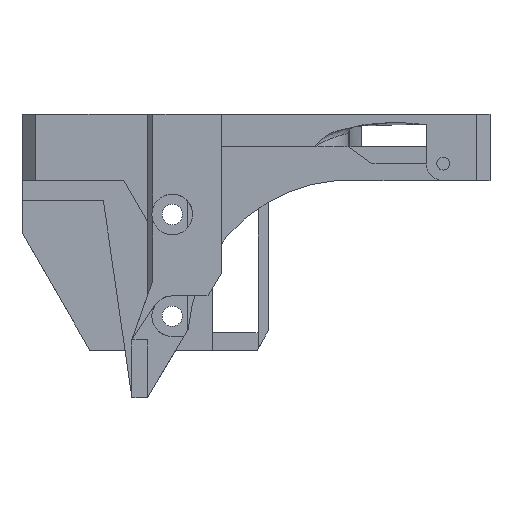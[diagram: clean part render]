
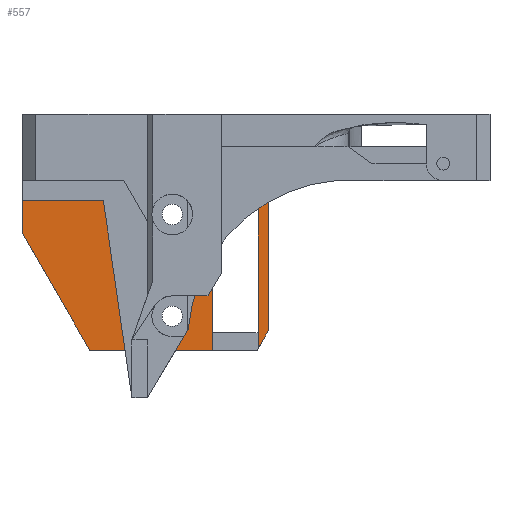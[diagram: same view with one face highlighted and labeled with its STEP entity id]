
A CAD part, left-side view. The second image highlights one B-rep face of the part: STEP entity #557.
In plain terms, the highlighted planar face has unit normal (-1, 0, 0).
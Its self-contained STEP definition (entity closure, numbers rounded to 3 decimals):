
#557=ADVANCED_FACE('',(#2814,#2816,#2818),#2820,.T.);
#2814=FACE_BOUND('',#2815,.T.);
#2815=EDGE_LOOP('',(#4746,#4747,#4748,#4749,#4750,#4751,#4752,#4753,#4754,#4755,
#4756));
#2816=FACE_BOUND('',#2817,.T.);
#2817=EDGE_LOOP('',(#4757));
#2818=FACE_BOUND('',#2819,.T.);
#2819=EDGE_LOOP('',(#4758));
#2820=PLANE('',#2821);
#2821=AXIS2_PLACEMENT_3D('',#2822,#2823,#2824);
#2822=CARTESIAN_POINT('',(16.2,-38.53,-4.75));
#2823=DIRECTION('',(-1.,0.,0.));
#2824=DIRECTION('',(0.,1.,0.));
#4746=ORIENTED_EDGE('',*,*,#6112,.F.);
#4747=ORIENTED_EDGE('',*,*,#5899,.T.);
#4748=ORIENTED_EDGE('',*,*,#5910,.T.);
#4749=ORIENTED_EDGE('',*,*,#5938,.T.);
#4750=ORIENTED_EDGE('',*,*,#6113,.T.);
#4751=ORIENTED_EDGE('',*,*,#6114,.T.);
#4752=ORIENTED_EDGE('',*,*,#6115,.T.);
#4753=ORIENTED_EDGE('',*,*,#6116,.T.);
#4754=ORIENTED_EDGE('',*,*,#6117,.T.);
#4755=ORIENTED_EDGE('',*,*,#6118,.F.);
#4756=ORIENTED_EDGE('',*,*,#6119,.T.);
#4757=ORIENTED_EDGE('',*,*,#6120,.T.);
#4758=ORIENTED_EDGE('',*,*,#6121,.T.);
#5899=EDGE_CURVE('',#6692,#6701,#6703,.F.);
#5910=EDGE_CURVE('',#6701,#6720,#6722,.F.);
#5938=EDGE_CURVE('',#6720,#6769,#6771,.T.);
#6112=EDGE_CURVE('',#6692,#7080,#7081,.F.);
#6113=EDGE_CURVE('',#6769,#7082,#7083,.F.);
#6114=EDGE_CURVE('',#7082,#7084,#7085,.F.);
#6115=EDGE_CURVE('',#7084,#7086,#7087,.F.);
#6116=EDGE_CURVE('',#7086,#7088,#7089,.F.);
#6117=EDGE_CURVE('',#7088,#7090,#7091,.F.);
#6118=EDGE_CURVE('',#7092,#7090,#7093,.F.);
#6119=EDGE_CURVE('',#7092,#7080,#7094,.F.);
#6120=EDGE_CURVE('',#7095,#7095,#7096,.F.);
#6121=EDGE_CURVE('',#7097,#7097,#7098,.F.);
#6692=VERTEX_POINT('',#8065);
#6701=VERTEX_POINT('',#8084);
#6703=LINE('',#8088,#8089);
#6720=VERTEX_POINT('',#8128);
#6722=LINE('',#8132,#8133);
#6769=VERTEX_POINT('',#8275);
#6771=LINE('',#8279,#8280);
#7080=VERTEX_POINT('',#9108);
#7081=LINE('',#9109,#9110);
#7082=VERTEX_POINT('',#9112);
#7083=LINE('',#9113,#9114);
#7084=VERTEX_POINT('',#9116);
#7085=LINE('',#9117,#9118);
#7086=VERTEX_POINT('',#9120);
#7087=LINE('',#9121,#9122);
#7088=VERTEX_POINT('',#9124);
#7089=LINE('',#9125,#9126);
#7090=VERTEX_POINT('',#9128);
#7091=LINE('',#9129,#9130);
#7092=VERTEX_POINT('',#9132);
#7093=LINE('',#9133,#9134);
#7094=LINE('',#9136,#9137);
#7095=VERTEX_POINT('',#9139);
#7096=CIRCLE('',#9140,1.5);
#7097=VERTEX_POINT('',#9144);
#7098=CIRCLE('',#9145,1.5);
#8065=CARTESIAN_POINT('',(16.2,-5.53,-8.685));
#8084=CARTESIAN_POINT('',(16.2,-5.53,-4.75));
#8088=CARTESIAN_POINT('',(16.2,-5.53,-4.75));
#8089=VECTOR('',#8090,1.);
#8090=DIRECTION('',(0.,0.,-1.));
#8128=CARTESIAN_POINT('',(16.2,30.47,-4.75));
#8132=CARTESIAN_POINT('',(16.2,30.47,-4.75));
#8133=VECTOR('',#8134,1.);
#8134=DIRECTION('',(0.,-1.,0.));
#8275=CARTESIAN_POINT('',(16.2,30.47,-17.429));
#8279=CARTESIAN_POINT('',(16.2,30.47,-4.75));
#8280=VECTOR('',#8281,1.);
#8281=DIRECTION('',(0.,0.,-1.));
#9108=CARTESIAN_POINT('',(16.2,-5.93,-9.085));
#9109=CARTESIAN_POINT('',(16.2,-5.93,-9.085));
#9110=VECTOR('',#9111,1.);
#9111=DIRECTION('',(0.,0.707,0.707));
#9112=CARTESIAN_POINT('',(16.2,20.47,-34.75));
#9113=CARTESIAN_POINT('',(16.2,20.47,-34.75));
#9114=VECTOR('',#9115,1.);
#9115=DIRECTION('',(0.,0.5,0.866));
#9116=CARTESIAN_POINT('',(16.2,2.42,-34.75));
#9117=CARTESIAN_POINT('',(16.2,2.42,-34.75));
#9118=VECTOR('',#9119,1.);
#9119=DIRECTION('',(0.,1.,0.));
#9120=CARTESIAN_POINT('',(16.2,2.42,-9.185));
#9121=CARTESIAN_POINT('',(16.2,2.42,-9.185));
#9122=VECTOR('',#9123,1.);
#9123=DIRECTION('',(0.,0.,-1.));
#9124=CARTESIAN_POINT('',(16.2,-4.33,-9.185));
#9125=CARTESIAN_POINT('',(16.2,-4.33,-9.185));
#9126=VECTOR('',#9127,1.);
#9127=DIRECTION('',(0.,1.,0.));
#9128=CARTESIAN_POINT('',(16.2,-4.33,-34.521));
#9129=CARTESIAN_POINT('',(16.2,-4.33,-34.521));
#9130=VECTOR('',#9131,1.);
#9131=DIRECTION('',(0.,0.,1.));
#9132=CARTESIAN_POINT('',(16.2,-5.93,-31.75));
#9133=CARTESIAN_POINT('',(16.2,-4.33,-34.521));
#9134=VECTOR('',#9135,1.);
#9135=DIRECTION('',(0.,-0.5,0.866));
#9136=CARTESIAN_POINT('',(16.2,-5.93,-9.085));
#9137=VECTOR('',#9138,1.);
#9138=DIRECTION('',(0.,0.,-1.));
#9139=CARTESIAN_POINT('',(16.2,6.82,-29.75));
#9140=AXIS2_PLACEMENT_3D('',#9141,#9142,#9143);
#9141=CARTESIAN_POINT('',(16.2,8.32,-29.75));
#9142=DIRECTION('',(-1.,0.,0.));
#9143=DIRECTION('',(0.,-1.,0.));
#9144=CARTESIAN_POINT('',(16.2,6.82,-14.75));
#9145=AXIS2_PLACEMENT_3D('',#9146,#9147,#9148);
#9146=CARTESIAN_POINT('',(16.2,8.32,-14.75));
#9147=DIRECTION('',(-1.,0.,0.));
#9148=DIRECTION('',(0.,-1.,0.));
